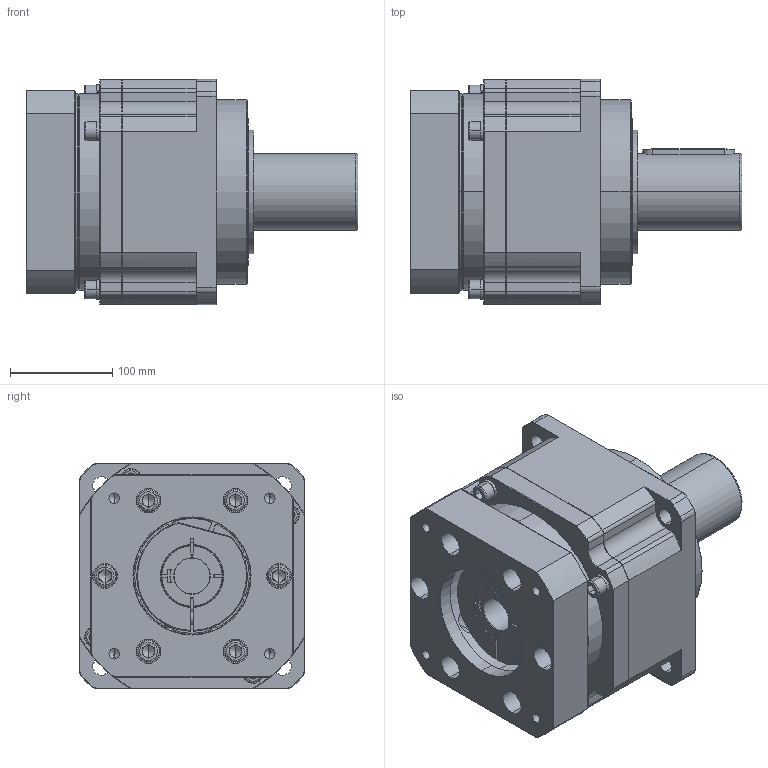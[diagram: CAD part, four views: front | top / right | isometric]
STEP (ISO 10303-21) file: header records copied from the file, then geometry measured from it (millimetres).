
FILE_DESCRIPTION (( 'STEP AP214' ), '1' );
FILE_NAME ('PAB-220-L1-S2-P1 35-114.3-200-M12.STEP', '2023-08-19T07:09:27', ( '微软用户' ), ( '微软中国' ), 'SwSTEP 2.0', 'SolidWorks 2018', '' );
FILE_SCHEMA (( 'AUTOMOTIVE_DESIGN' ));
Length unit declared in the file: millimetre
Products named in the file (1): PAB-220-L1-S2-P1 35-114.3-200-M12
Bounding box: 324 x 220 x 220 mm (x, y, z)
Volume: 7930706.7 mm3; surface area: 551748 mm2
Topology: 1 solids, 21 shells, 1193 faces, 3152 edges, 1962 vertices
Faces by surface type: plane 428, cylinder 396, cone 219, bspline 150
Entity records: 42843 total; most frequent: CARTESIAN_POINT 13861, ORIENTED_EDGE 6196, DIRECTION 6055, EDGE_CURVE 3098, AXIS2_PLACEMENT_3D 2384, VERTEX_POINT 1962, CIRCLE 1340, EDGE_LOOP 1334
